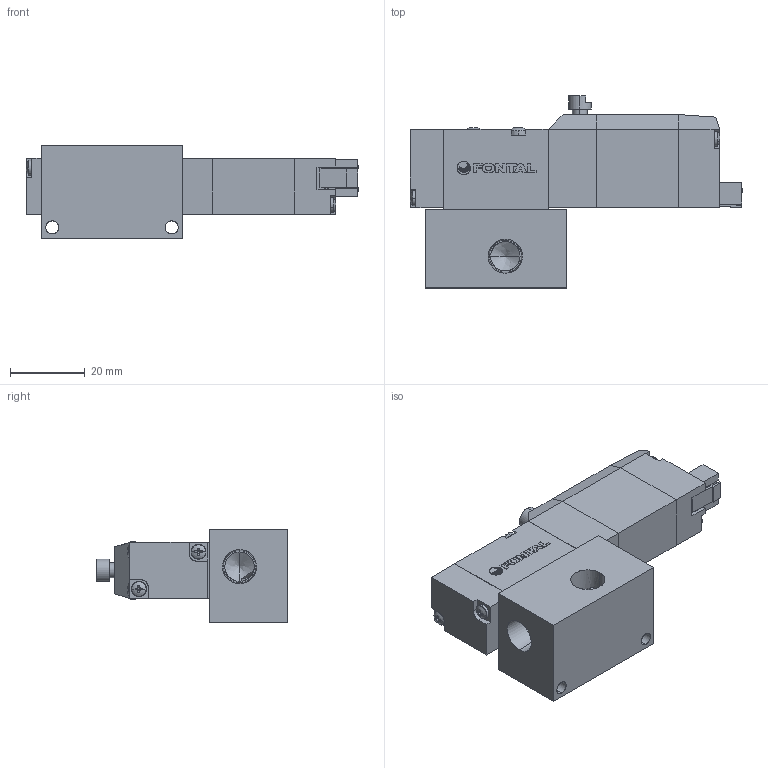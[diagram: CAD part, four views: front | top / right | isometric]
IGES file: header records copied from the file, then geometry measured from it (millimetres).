
Start section: SolidWorks IGES file using analytic representation for surfaces
Global section: file name: D:\Custom\3D繪製\PC\PCL5\PCL245#-01-#-SP-#.IGS,1; native system: 5HSolidWorks 2014; preprocessor: SolidWorks 2014; author: Chieh_Lu; date: 150916.143250; units: millimetre
Bounding box: 89.07 x 51.5 x 25 mm (x, y, z)
Surface area: 19160.8 mm2 (no closed solid volume)
Topology: 0 solids, 0 shells, 552 faces, 5134 edges, 5108 vertices
Faces by surface type: bspline 353, revolution 199
